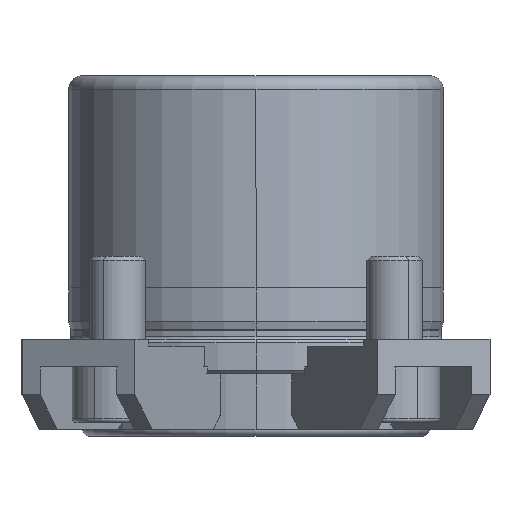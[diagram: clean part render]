
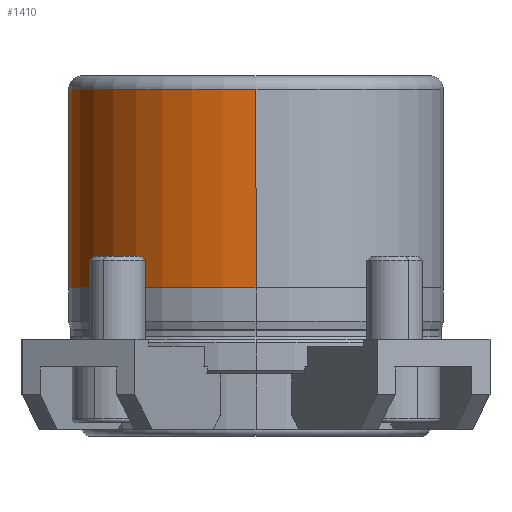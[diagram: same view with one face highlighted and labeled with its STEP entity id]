
A CAD part, left-side view. The second image highlights one B-rep face of the part: STEP entity #1410.
In plain terms, the highlighted cylindrical face has radius 26.995 mm (diameter 53.99 mm), a partial arc.
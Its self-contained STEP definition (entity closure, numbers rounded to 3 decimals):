
#954=CARTESIAN_POINT('',(0.0,26.995,36.));
#955=VERTEX_POINT('',#954);
#965=CARTESIAN_POINT('',(-26.995,0.,36.0));
#966=VERTEX_POINT('',#965);
#967=CARTESIAN_POINT('',(0.0,0.,36.0));
#968=DIRECTION('',(0.0,0.0,-1.0));
#969=DIRECTION('',(1.0,0.0,0.0));
#970=AXIS2_PLACEMENT_3D('',#967,#968,#969);
#971=CIRCLE('',#970,26.995);
#972=EDGE_CURVE('',#966,#955,#971,.T.);
#1331=CARTESIAN_POINT('',(0.0,0.,21.7));
#1332=DIRECTION('',(0.0,0.,-1.0));
#1333=DIRECTION('',(1.0,0.0,0.0));
#1334=AXIS2_PLACEMENT_3D('',#1331,#1332,#1333);
#1335=CYLINDRICAL_SURFACE('',#1334,26.995);
#1336=CARTESIAN_POINT('',(26.995,0.,12.6));
#1337=VERTEX_POINT('',#1336);
#1338=CARTESIAN_POINT('',(26.995,0.,36.0));
#1339=VERTEX_POINT('',#1338);
#1340=CARTESIAN_POINT('',(26.995,0.,12.6));
#1341=DIRECTION('',(0.0,0.0,1.0));
#1342=VECTOR('',#1341,23.4);
#1343=LINE('',#1340,#1342);
#1344=EDGE_CURVE('',#1337,#1339,#1343,.T.);
#1345=ORIENTED_EDGE('',*,*,#1344,.F.);
#1346=CARTESIAN_POINT('',(26.995,0.,7.4));
#1347=VERTEX_POINT('',#1346);
#1348=CARTESIAN_POINT('',(26.995,0.,12.6));
#1349=CARTESIAN_POINT('',(26.995,0.163,12.6));
#1350=CARTESIAN_POINT('',(26.993,0.332,12.584));
#1351=CARTESIAN_POINT('',(26.987,0.668,12.519));
#1352=CARTESIAN_POINT('',(26.983,0.835,12.468));
#1353=CARTESIAN_POINT('',(26.971,1.155,12.336));
#1354=CARTESIAN_POINT('',(26.964,1.309,12.253));
#1355=CARTESIAN_POINT('',(26.948,1.593,12.062));
#1356=CARTESIAN_POINT('',(26.94,1.723,11.954));
#1357=CARTESIAN_POINT('',(26.924,1.954,11.723));
#1358=CARTESIAN_POINT('',(26.916,2.062,11.593));
#1359=CARTESIAN_POINT('',(26.901,2.253,11.309));
#1360=CARTESIAN_POINT('',(26.894,2.336,11.155));
#1361=CARTESIAN_POINT('',(26.882,2.468,10.835));
#1362=CARTESIAN_POINT('',(26.877,2.519,10.668));
#1363=CARTESIAN_POINT('',(26.871,2.584,10.332));
#1364=CARTESIAN_POINT('',(26.869,2.6,10.163));
#1365=CARTESIAN_POINT('',(26.869,2.6,9.837));
#1366=CARTESIAN_POINT('',(26.871,2.584,9.668));
#1367=CARTESIAN_POINT('',(26.877,2.519,9.332));
#1368=CARTESIAN_POINT('',(26.882,2.468,9.165));
#1369=CARTESIAN_POINT('',(26.894,2.336,8.845));
#1370=CARTESIAN_POINT('',(26.901,2.253,8.691));
#1371=CARTESIAN_POINT('',(26.916,2.062,8.407));
#1372=CARTESIAN_POINT('',(26.924,1.954,8.277));
#1373=CARTESIAN_POINT('',(26.94,1.723,8.046));
#1374=CARTESIAN_POINT('',(26.948,1.593,7.938));
#1375=CARTESIAN_POINT('',(26.964,1.309,7.747));
#1376=CARTESIAN_POINT('',(26.971,1.155,7.664));
#1377=CARTESIAN_POINT('',(26.983,0.835,7.532));
#1378=CARTESIAN_POINT('',(26.987,0.668,7.481));
#1379=CARTESIAN_POINT('',(26.993,0.332,7.416));
#1380=CARTESIAN_POINT('',(26.995,0.163,7.4));
#1381=CARTESIAN_POINT('',(26.995,0.,7.4));
#1382=B_SPLINE_CURVE_WITH_KNOTS('',3,(#1348,#1349,#1350,#1351,#1352,#1353,#1354,#1355,#1356,#1357,#1358,#1359,#1360,#1361,#1362,#1363,#1364,#1365,#1366,#1367,#1368,#1369,#1370,#1371,#1372,#1373,#1374,#1375,#1376,#1377,#1378,#1379,#1380,#1381),.UNSPECIFIED.,.F.,.U.,(4,2,2,2,2,2,2,2,2,2,2,2,2,2,2,2,4),(19.601,20.091,20.581,21.071,21.561,22.051,22.541,23.031,23.521,24.011,24.501,24.991,25.481,25.971,26.461,26.951,27.441),.UNSPECIFIED.);
#1383=EDGE_CURVE('',#1337,#1347,#1382,.T.);
#1384=ORIENTED_EDGE('',*,*,#1383,.T.);
#1385=CARTESIAN_POINT('',(-26.995,0.,7.4));
#1386=VERTEX_POINT('',#1385);
#1387=CARTESIAN_POINT('',(0.0,0.,7.4));
#1388=DIRECTION('',(0.0,0.0,-1.0));
#1389=DIRECTION('',(1.0,0.0,0.0));
#1390=AXIS2_PLACEMENT_3D('',#1387,#1388,#1389);
#1391=CIRCLE('',#1390,26.995);
#1392=EDGE_CURVE('',#1386,#1347,#1391,.T.);
#1393=ORIENTED_EDGE('',*,*,#1392,.F.);
#1394=CARTESIAN_POINT('',(-26.995,0.,7.4));
#1395=DIRECTION('',(0.0,0.0,1.0));
#1396=VECTOR('',#1395,28.6);
#1397=LINE('',#1394,#1396);
#1398=EDGE_CURVE('',#1386,#966,#1397,.T.);
#1399=ORIENTED_EDGE('',*,*,#1398,.T.);
#1400=ORIENTED_EDGE('',*,*,#972,.T.);
#1401=CARTESIAN_POINT('',(0.0,0.,36.0));
#1402=DIRECTION('',(0.0,0.0,-1.0));
#1403=DIRECTION('',(1.0,0.0,0.0));
#1404=AXIS2_PLACEMENT_3D('',#1401,#1402,#1403);
#1405=CIRCLE('',#1404,26.995);
#1406=EDGE_CURVE('',#955,#1339,#1405,.T.);
#1407=ORIENTED_EDGE('',*,*,#1406,.T.);
#1408=EDGE_LOOP('',(#1345,#1384,#1393,#1399,#1400,#1407));
#1409=FACE_OUTER_BOUND('',#1408,.T.);
#1410=ADVANCED_FACE('',(#1409),#1335,.T.);
